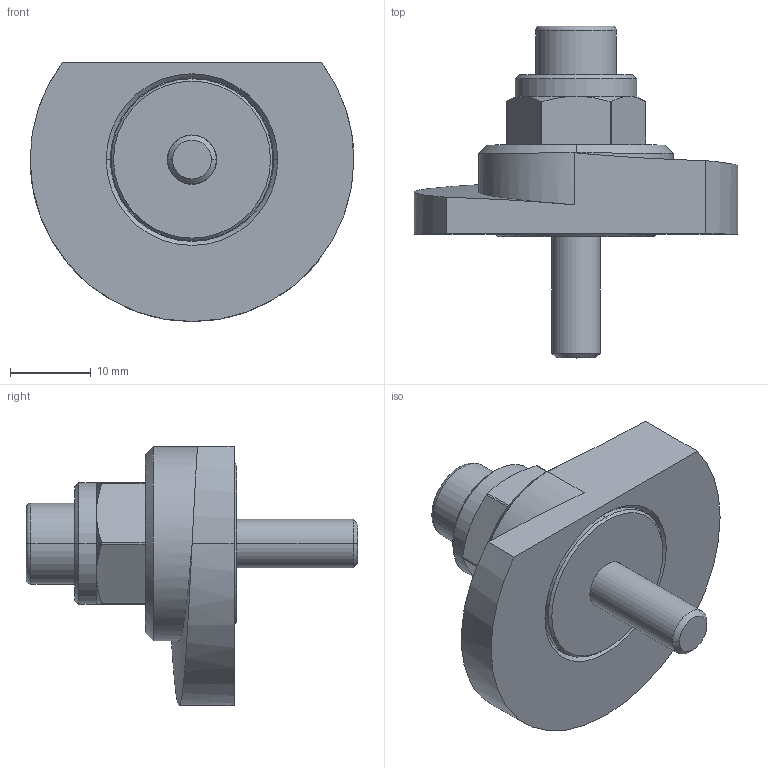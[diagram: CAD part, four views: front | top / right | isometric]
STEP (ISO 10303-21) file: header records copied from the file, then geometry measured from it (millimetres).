
FILE_DESCRIPTION (( 'STEP AP214' ), '1' );
FILE_NAME ('918.1-40-SKS-L-15.step', '2024-05-15T13:00:42', ( '' ), ( '' ), 'SwSTEP 2.0', 'SolidWorks 2022', '' );
FILE_SCHEMA (( 'AUTOMOTIVE_DESIGN' ));
Length unit declared in the file: millimetre
Products named in the file (1): 918.1-40-SKS-L-15
Bounding box: 40 x 41 x 32 mm (x, y, z)
Volume: 11374.2 mm3; surface area: 6491.2 mm2
Topology: 1 solids, 2 shells, 80 faces, 179 edges, 112 vertices
Faces by surface type: cylinder 27, plane 26, cone 22, bspline 3, torus 2
Entity records: 2599 total; most frequent: CARTESIAN_POINT 777, DIRECTION 390, ORIENTED_EDGE 358, EDGE_CURVE 179, AXIS2_PLACEMENT_3D 157, VERTEX_POINT 112, EDGE_LOOP 91, FACE_OUTER_BOUND 80
